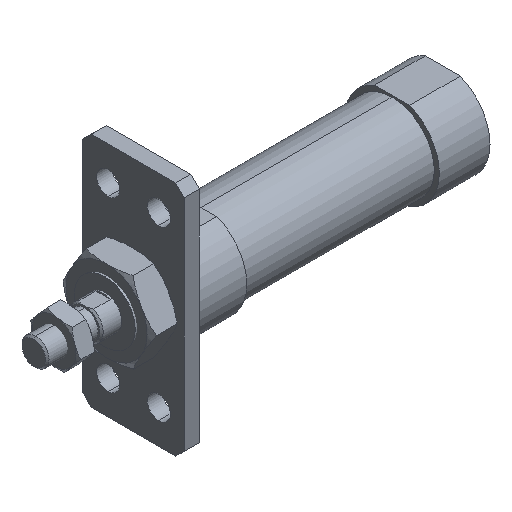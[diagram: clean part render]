
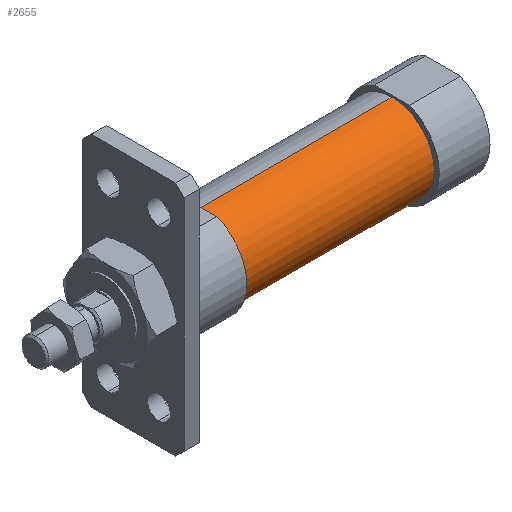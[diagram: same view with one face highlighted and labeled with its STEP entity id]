
A CAD part, isometric view. The second image highlights one B-rep face of the part: STEP entity #2655.
In plain terms, the highlighted cylindrical face has radius 12.5 mm (diameter 25 mm), a partial arc.
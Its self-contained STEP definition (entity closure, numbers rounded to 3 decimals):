
#255 = CARTESIAN_POINT ( 'NONE',  ( 49., 0., 12.5 ) ) ;
#289 = CARTESIAN_POINT ( 'NONE',  ( 49., 0., -12.5 ) ) ;
#391 = DIRECTION ( 'NONE',  ( 0., 0., 1. ) ) ;
#443 = CARTESIAN_POINT ( 'NONE',  ( 106., 0., 0. ) ) ;
#628 = ORIENTED_EDGE ( 'NONE', *, *, #2384, .F. ) ;
#659 = VERTEX_POINT ( 'NONE', #289 ) ;
#672 = VECTOR ( 'NONE', #1298, 1000. ) ;
#678 = DIRECTION ( 'NONE',  ( -1., 0., 0. ) ) ;
#816 = CYLINDRICAL_SURFACE ( 'NONE', #2820, 12.5 ) ;
#828 = ORIENTED_EDGE ( 'NONE', *, *, #1669, .T. ) ;
#985 = CIRCLE ( 'NONE', #3192, 12.5 ) ;
#1298 = DIRECTION ( 'NONE',  ( -1., 0., 0. ) ) ;
#1333 = DIRECTION ( 'NONE',  ( 0., 0., 1. ) ) ;
#1459 = LINE ( 'NONE', #1616, #672 ) ;
#1486 = EDGE_CURVE ( 'NONE', #2197, #3301, #2078, .T. ) ;
#1596 = EDGE_CURVE ( 'NONE', #659, #2582, #985, .T. ) ;
#1614 = AXIS2_PLACEMENT_3D ( 'NONE', #443, #3100, #1333 ) ;
#1616 = CARTESIAN_POINT ( 'NONE',  ( -6.469, 0., -12.5 ) ) ;
#1669 = EDGE_CURVE ( 'NONE', #3301, #2582, #2499, .T. ) ;
#1703 = CARTESIAN_POINT ( 'NONE',  ( 106., 0., -12.5 ) ) ;
#1707 = VECTOR ( 'NONE', #2216, 1000. ) ;
#1789 = ORIENTED_EDGE ( 'NONE', *, *, #1596, .F. ) ;
#1793 = DIRECTION ( 'NONE',  ( 0., 0., 1. ) ) ;
#1928 = CARTESIAN_POINT ( 'NONE',  ( -6.469, 0., 12.5 ) ) ;
#2078 = CIRCLE ( 'NONE', #1614, 12.5 ) ;
#2106 = DIRECTION ( 'NONE',  ( -1., 0., 0. ) ) ;
#2130 = FACE_OUTER_BOUND ( 'NONE', #3426, .T. ) ;
#2197 = VERTEX_POINT ( 'NONE', #1703 ) ;
#2216 = DIRECTION ( 'NONE',  ( -1., 0., 0. ) ) ;
#2384 = EDGE_CURVE ( 'NONE', #2197, #659, #1459, .T. ) ;
#2428 = CARTESIAN_POINT ( 'NONE',  ( 49., 0., 0. ) ) ;
#2499 = LINE ( 'NONE', #1928, #1707 ) ;
#2582 = VERTEX_POINT ( 'NONE', #255 ) ;
#2655 = ADVANCED_FACE ( 'NONE', ( #2130 ), #816, .T. ) ;
#2684 = CARTESIAN_POINT ( 'NONE',  ( -6.469, 0., 0. ) ) ;
#2820 = AXIS2_PLACEMENT_3D ( 'NONE', #2684, #2106, #1793 ) ;
#2965 = ORIENTED_EDGE ( 'NONE', *, *, #1486, .T. ) ;
#3100 = DIRECTION ( 'NONE',  ( -1., 0., 0. ) ) ;
#3192 = AXIS2_PLACEMENT_3D ( 'NONE', #2428, #678, #391 ) ;
#3301 = VERTEX_POINT ( 'NONE', #3624 ) ;
#3426 = EDGE_LOOP ( 'NONE', ( #628, #2965, #828, #1789 ) ) ;
#3624 = CARTESIAN_POINT ( 'NONE',  ( 106., 0., 12.5 ) ) ;
